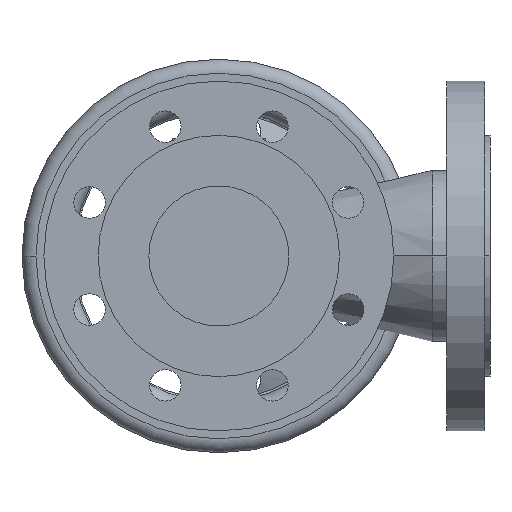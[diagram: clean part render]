
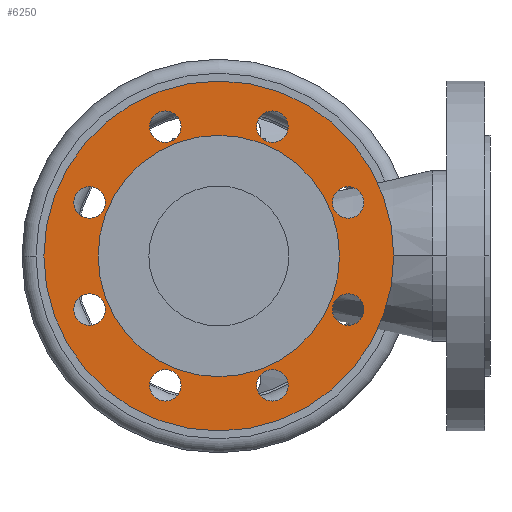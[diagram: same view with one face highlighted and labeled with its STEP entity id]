
A CAD part, front view. The second image highlights one B-rep face of the part: STEP entity #6250.
In plain terms, the highlighted planar face has unit normal (0, -1, 0).
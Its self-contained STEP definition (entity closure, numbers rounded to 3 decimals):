
#610=CARTESIAN_POINT('',(-69.,3.,0.));
#620=VERTEX_POINT('',#610);
#780=CARTESIAN_POINT('',(69.,3.,0.));
#790=VERTEX_POINT('',#780);
#820=CARTESIAN_POINT('',(0.,3.,0.));
#830=DIRECTION('',(0.,-1.,0.));
#840=DIRECTION('',(-1.,0.,0.));
#850=AXIS2_PLACEMENT_3D('',#820,#830,#840);
#860=CIRCLE('',#850,69.);
#870=EDGE_CURVE('',#620,#790,#860,.T.);
#4800=CARTESIAN_POINT('',(0.,3.,0.));
#4810=DIRECTION('',(0.,1.,0.));
#4820=DIRECTION('',(0.,0.,1.));
#4830=AXIS2_PLACEMENT_3D('',#4800,#4810,#4820);
#4840=PLANE('',#4830);
#4850=CARTESIAN_POINT('',(-73.91,3.,30.615));
#4860=DIRECTION('',(0.,1.,0.));
#4870=DIRECTION('',(1.,0.,0.));
#4880=AXIS2_PLACEMENT_3D('',#4850,#4860,#4870);
#4890=CIRCLE('',#4880,9.);
#4900=CARTESIAN_POINT('',(-82.91,3.,30.615));
#4910=VERTEX_POINT('',#4900);
#4920=CARTESIAN_POINT('',(-64.91,3.,30.615));
#4930=VERTEX_POINT('',#4920);
#4940=EDGE_CURVE('',#4910,#4930,#4890,.T.);
#4950=ORIENTED_EDGE('',*,*,#4940,.T.);
#4960=EDGE_CURVE('',#4930,#4910,#4890,.T.);
#4970=ORIENTED_EDGE('',*,*,#4960,.T.);
#4980=EDGE_LOOP('',(#4970,#4950));
#4990=FACE_BOUND('',#4980,.T.);
#5000=CARTESIAN_POINT('',(-73.91,3.,-30.615));
#5010=DIRECTION('',(0.,1.,0.));
#5020=DIRECTION('',(1.,0.,0.));
#5030=AXIS2_PLACEMENT_3D('',#5000,#5010,#5020);
#5040=CIRCLE('',#5030,9.);
#5050=CARTESIAN_POINT('',(-64.91,3.,-30.615));
#5060=VERTEX_POINT('',#5050);
#5070=CARTESIAN_POINT('',(-82.91,3.,-30.615));
#5080=VERTEX_POINT('',#5070);
#5090=EDGE_CURVE('',#5060,#5080,#5040,.T.);
#5100=ORIENTED_EDGE('',*,*,#5090,.T.);
#5110=EDGE_CURVE('',#5080,#5060,#5040,.T.);
#5120=ORIENTED_EDGE('',*,*,#5110,.T.);
#5130=EDGE_LOOP('',(#5120,#5100));
#5140=FACE_BOUND('',#5130,.T.);
#5150=CARTESIAN_POINT('',(-30.615,3.,73.91));
#5160=DIRECTION('',(0.,1.,0.));
#5170=DIRECTION('',(1.,0.,0.));
#5180=AXIS2_PLACEMENT_3D('',#5150,#5160,#5170);
#5190=CIRCLE('',#5180,9.);
#5200=CARTESIAN_POINT('',(-39.615,3.,73.91));
#5210=VERTEX_POINT('',#5200);
#5220=CARTESIAN_POINT('',(-21.615,3.,73.91));
#5230=VERTEX_POINT('',#5220);
#5240=EDGE_CURVE('',#5210,#5230,#5190,.T.);
#5250=ORIENTED_EDGE('',*,*,#5240,.T.);
#5260=EDGE_CURVE('',#5230,#5210,#5190,.T.);
#5270=ORIENTED_EDGE('',*,*,#5260,.T.);
#5280=EDGE_LOOP('',(#5270,#5250));
#5290=FACE_BOUND('',#5280,.T.);
#5300=CARTESIAN_POINT('',(-30.615,3.,-73.91));
#5310=DIRECTION('',(0.,1.,0.));
#5320=DIRECTION('',(1.,0.,0.));
#5330=AXIS2_PLACEMENT_3D('',#5300,#5310,#5320);
#5340=CIRCLE('',#5330,9.);
#5350=CARTESIAN_POINT('',(-21.615,3.,-73.91));
#5360=VERTEX_POINT('',#5350);
#5370=CARTESIAN_POINT('',(-39.615,3.,-73.91));
#5380=VERTEX_POINT('',#5370);
#5390=EDGE_CURVE('',#5360,#5380,#5340,.T.);
#5400=ORIENTED_EDGE('',*,*,#5390,.T.);
#5410=EDGE_CURVE('',#5380,#5360,#5340,.T.);
#5420=ORIENTED_EDGE('',*,*,#5410,.T.);
#5430=EDGE_LOOP('',(#5420,#5400));
#5440=FACE_BOUND('',#5430,.T.);
#5450=CARTESIAN_POINT('',(30.615,3.,73.91));
#5460=DIRECTION('',(0.,1.,0.));
#5470=DIRECTION('',(1.,0.,0.));
#5480=AXIS2_PLACEMENT_3D('',#5450,#5460,#5470);
#5490=CIRCLE('',#5480,9.);
#5500=CARTESIAN_POINT('',(39.615,3.,73.91));
#5510=VERTEX_POINT('',#5500);
#5520=CARTESIAN_POINT('',(21.615,3.,73.91));
#5530=VERTEX_POINT('',#5520);
#5540=EDGE_CURVE('',#5510,#5530,#5490,.T.);
#5550=ORIENTED_EDGE('',*,*,#5540,.T.);
#5560=EDGE_CURVE('',#5530,#5510,#5490,.T.);
#5570=ORIENTED_EDGE('',*,*,#5560,.T.);
#5580=EDGE_LOOP('',(#5570,#5550));
#5590=FACE_BOUND('',#5580,.T.);
#5600=CARTESIAN_POINT('',(30.615,3.,-73.91));
#5610=DIRECTION('',(0.,1.,0.));
#5620=DIRECTION('',(1.,0.,0.));
#5630=AXIS2_PLACEMENT_3D('',#5600,#5610,#5620);
#5640=CIRCLE('',#5630,9.);
#5650=CARTESIAN_POINT('',(21.615,3.,-73.91));
#5660=VERTEX_POINT('',#5650);
#5670=CARTESIAN_POINT('',(39.615,3.,-73.91));
#5680=VERTEX_POINT('',#5670);
#5690=EDGE_CURVE('',#5660,#5680,#5640,.T.);
#5700=ORIENTED_EDGE('',*,*,#5690,.T.);
#5710=EDGE_CURVE('',#5680,#5660,#5640,.T.);
#5720=ORIENTED_EDGE('',*,*,#5710,.T.);
#5730=EDGE_LOOP('',(#5720,#5700));
#5740=FACE_BOUND('',#5730,.T.);
#5750=CARTESIAN_POINT('',(73.91,3.,30.615));
#5760=DIRECTION('',(0.,1.,0.));
#5770=DIRECTION('',(1.,0.,0.));
#5780=AXIS2_PLACEMENT_3D('',#5750,#5760,#5770);
#5790=CIRCLE('',#5780,9.);
#5800=CARTESIAN_POINT('',(64.91,3.,30.615));
#5810=VERTEX_POINT('',#5800);
#5820=CARTESIAN_POINT('',(82.91,3.,30.615));
#5830=VERTEX_POINT('',#5820);
#5840=EDGE_CURVE('',#5810,#5830,#5790,.T.);
#5850=ORIENTED_EDGE('',*,*,#5840,.T.);
#5860=EDGE_CURVE('',#5830,#5810,#5790,.T.);
#5870=ORIENTED_EDGE('',*,*,#5860,.T.);
#5880=EDGE_LOOP('',(#5870,#5850));
#5890=FACE_BOUND('',#5880,.T.);
#5900=CARTESIAN_POINT('',(73.91,3.,-30.615));
#5910=DIRECTION('',(0.,1.,0.));
#5920=DIRECTION('',(1.,0.,0.));
#5930=AXIS2_PLACEMENT_3D('',#5900,#5910,#5920);
#5940=CIRCLE('',#5930,9.);
#5950=CARTESIAN_POINT('',(82.91,3.,-30.615));
#5960=VERTEX_POINT('',#5950);
#5970=CARTESIAN_POINT('',(64.91,3.,-30.615));
#5980=VERTEX_POINT('',#5970);
#5990=EDGE_CURVE('',#5960,#5980,#5940,.T.);
#6000=ORIENTED_EDGE('',*,*,#5990,.T.);
#6010=EDGE_CURVE('',#5980,#5960,#5940,.T.);
#6020=ORIENTED_EDGE('',*,*,#6010,.T.);
#6030=EDGE_LOOP('',(#6020,#6000));
#6040=FACE_BOUND('',#6030,.T.);
#6050=CARTESIAN_POINT('',(0.,3.,0.));
#6060=DIRECTION('',(0.,1.,0.));
#6070=DIRECTION('',(1.,0.,0.));
#6080=AXIS2_PLACEMENT_3D('',#6050,#6060,#6070);
#6090=CIRCLE('',#6080,100.);
#6100=CARTESIAN_POINT('',(-100.,3.,0.));
#6110=VERTEX_POINT('',#6100);
#6120=CARTESIAN_POINT('',(100.,3.,0.));
#6130=VERTEX_POINT('',#6120);
#6140=EDGE_CURVE('',#6110,#6130,#6090,.T.);
#6150=ORIENTED_EDGE('',*,*,#6140,.F.);
#6160=EDGE_CURVE('',#6130,#6110,#6090,.T.);
#6170=ORIENTED_EDGE('',*,*,#6160,.F.);
#6180=EDGE_LOOP('',(#6170,#6150));
#6190=FACE_OUTER_BOUND('',#6180,.T.);
#6200=EDGE_CURVE('',#790,#620,#860,.T.);
#6210=ORIENTED_EDGE('',*,*,#6200,.F.);
#6220=ORIENTED_EDGE('',*,*,#870,.F.);
#6230=EDGE_LOOP('',(#6220,#6210));
#6240=FACE_BOUND('',#6230,.T.);
#6250=ADVANCED_FACE('',(#4990,#5140,#5290,#5440,#5590,#5740,#5890,#6040,
#6190,#6240),#4840,.F.);
